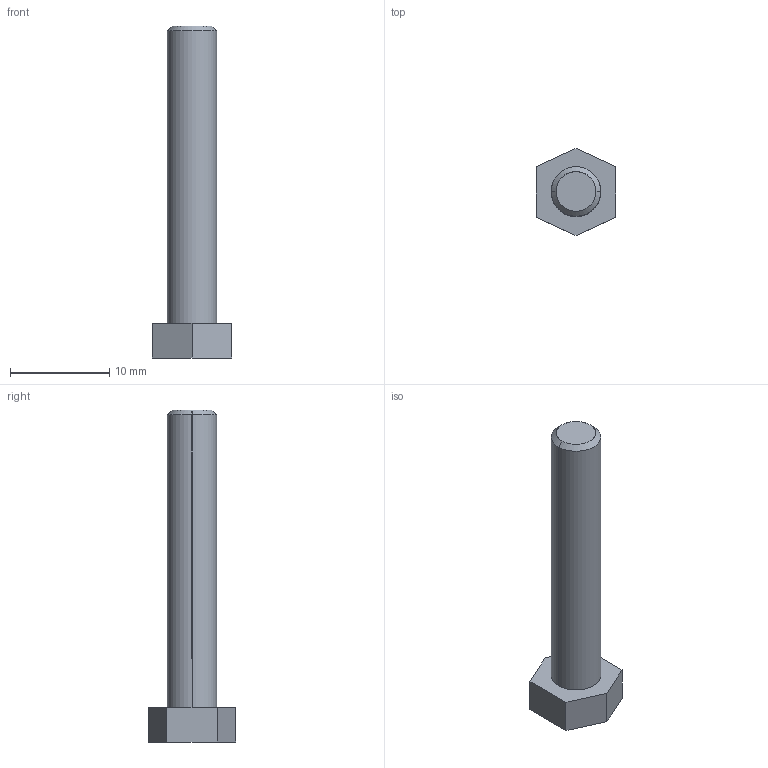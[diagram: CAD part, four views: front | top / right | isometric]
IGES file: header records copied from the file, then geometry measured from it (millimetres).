
Start section: SolidWorks IGES FILE using analytic representation for surfaces
Global section: file name: C:\Documents and Settings\lecoutey\Bureau\GR 62\54.100.10.IGS; native system: SolidWorks 2004 by SolidWorks Corporation; preprocessor: Version 5.3; author: lecoutey; date: 050330.160214; units: millimetre
Bounding box: 8 x 8.8 x 33.5 mm (x, y, z)
Surface area: 675.3 mm2 (no closed solid volume)
Topology: 0 solids, 0 shells, 13 faces, 116 edges, 116 vertices
Faces by surface type: bspline 9, revolution 4
